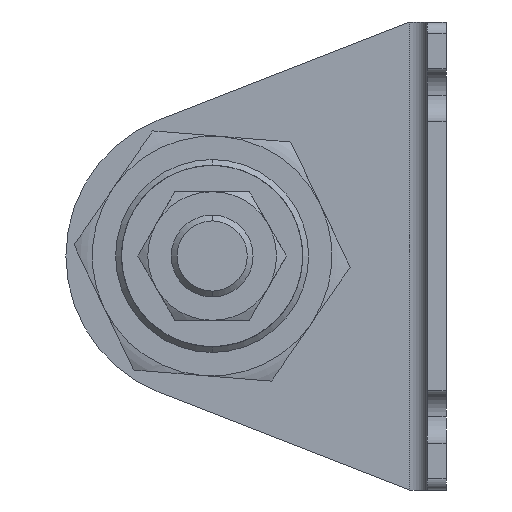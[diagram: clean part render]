
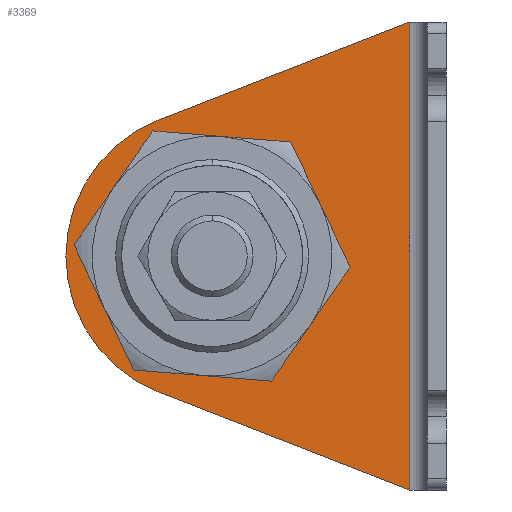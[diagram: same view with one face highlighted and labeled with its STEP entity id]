
A CAD part, left-side view. The second image highlights one B-rep face of the part: STEP entity #3369.
In plain terms, the highlighted planar face has unit normal (-1, 0, 0) as drawn and (1, 0, 0) by its records, which use the part's own axes.
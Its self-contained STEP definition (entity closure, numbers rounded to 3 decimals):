
#115 = CIRCLE ( 'NONE', #3756, 25. ) ;
#318 = DIRECTION ( 'NONE',  ( 0., 1., 0. ) ) ;
#419 = VECTOR ( 'NONE', #1192, 1000. ) ;
#472 = DIRECTION ( 'NONE',  ( 1., 0., 0. ) ) ;
#473 = DIRECTION ( 'NONE',  ( 1., 0., 0. ) ) ;
#530 = DIRECTION ( 'NONE',  ( 0., 1., 0. ) ) ;
#550 = DIRECTION ( 'NONE',  ( 1., 0., 0. ) ) ;
#761 = LINE ( 'NONE', #4305, #419 ) ;
#845 = PLANE ( 'NONE',  #2648 ) ;
#895 = DIRECTION ( 'NONE',  ( 1., 0., 0. ) ) ;
#1055 = LINE ( 'NONE', #3347, #1293 ) ;
#1066 = LINE ( 'NONE', #3132, #3350 ) ;
#1125 = ORIENTED_EDGE ( 'NONE', *, *, #3079, .T. ) ;
#1179 = CARTESIAN_POINT ( 'NONE',  ( 3.2, 40., -40. ) ) ;
#1192 = DIRECTION ( 'NONE',  ( 0., 0., -1. ) ) ;
#1293 = VECTOR ( 'NONE', #4438, 1000. ) ;
#1443 = AXIS2_PLACEMENT_3D ( 'NONE', #3338, #2734, #318 ) ;
#1528 = CARTESIAN_POINT ( 'NONE',  ( 3.2, 49.076, -63.294 ) ) ;
#1631 = ORIENTED_EDGE ( 'NONE', *, *, #3090, .F. ) ;
#1632 = FACE_OUTER_BOUND ( 'NONE', #3742, .T. ) ;
#1638 = CIRCLE ( 'NONE', #2561, 25. ) ;
#1781 = ORIENTED_EDGE ( 'NONE', *, *, #3499, .T. ) ;
#1887 = VERTEX_POINT ( 'NONE', #1528 ) ;
#1914 = DIRECTION ( 'NONE',  ( 0., 1., 0. ) ) ;
#2096 = VERTEX_POINT ( 'NONE', #2410 ) ;
#2244 = DIRECTION ( 'NONE',  ( 0., 0.932, 0.363 ) ) ;
#2272 = VERTEX_POINT ( 'NONE', #4154 ) ;
#2274 = CIRCLE ( 'NONE', #1443, 16.5 ) ;
#2324 = VERTEX_POINT ( 'NONE', #3408 ) ;
#2358 = EDGE_CURVE ( 'NONE', #4457, #2324, #1638, .T. ) ;
#2364 = CARTESIAN_POINT ( 'NONE',  ( 3.2, 6.2, 0. ) ) ;
#2378 = VERTEX_POINT ( 'NONE', #2364 ) ;
#2410 = CARTESIAN_POINT ( 'NONE',  ( 3.2, 56.5, -40. ) ) ;
#2527 = CIRCLE ( 'NONE', #3358, 16.5 ) ;
#2561 = AXIS2_PLACEMENT_3D ( 'NONE', #1179, #895, #530 ) ;
#2608 = CARTESIAN_POINT ( 'NONE',  ( 3.2, 3.2, -80. ) ) ;
#2648 = AXIS2_PLACEMENT_3D ( 'NONE', #2608, #550, #2900 ) ;
#2734 = DIRECTION ( 'NONE',  ( 1., 0., 0. ) ) ;
#2849 = ORIENTED_EDGE ( 'NONE', *, *, #3716, .F. ) ;
#2900 = DIRECTION ( 'NONE',  ( 0., 1., 0. ) ) ;
#2908 = CARTESIAN_POINT ( 'NONE',  ( 3.2, 23.5, -40. ) ) ;
#3079 = EDGE_CURVE ( 'NONE', #2378, #2272, #761, .T. ) ;
#3090 = EDGE_CURVE ( 'NONE', #4018, #2096, #2527, .T. ) ;
#3132 = CARTESIAN_POINT ( 'NONE',  ( 3.2, 3.595, -81.015 ) ) ;
#3137 = EDGE_CURVE ( 'NONE', #2378, #2324, #1055, .T. ) ;
#3338 = CARTESIAN_POINT ( 'NONE',  ( 3.2, 40., -40. ) ) ;
#3347 = CARTESIAN_POINT ( 'NONE',  ( 3.2, 30.657, -9.529 ) ) ;
#3350 = VECTOR ( 'NONE', #2244, 1000. ) ;
#3358 = AXIS2_PLACEMENT_3D ( 'NONE', #3752, #472, #4107 ) ;
#3369 = ADVANCED_FACE ( 'NONE', ( #3760, #1632 ), #845, .T. ) ;
#3408 = CARTESIAN_POINT ( 'NONE',  ( 3.2, 49.076, -16.706 ) ) ;
#3499 = EDGE_CURVE ( 'NONE', #2272, #1887, #1066, .T. ) ;
#3615 = CARTESIAN_POINT ( 'NONE',  ( 3.2, 40., -40. ) ) ;
#3628 = EDGE_LOOP ( 'NONE', ( #2849, #1631 ) ) ;
#3676 = ORIENTED_EDGE ( 'NONE', *, *, #3801, .T. ) ;
#3716 = EDGE_CURVE ( 'NONE', #2096, #4018, #2274, .T. ) ;
#3742 = EDGE_LOOP ( 'NONE', ( #1781, #3676, #3889, #4303, #1125 ) ) ;
#3752 = CARTESIAN_POINT ( 'NONE',  ( 3.2, 40., -40. ) ) ;
#3756 = AXIS2_PLACEMENT_3D ( 'NONE', #3615, #473, #1914 ) ;
#3760 = FACE_BOUND ( 'NONE', #3628, .T. ) ;
#3801 = EDGE_CURVE ( 'NONE', #1887, #4457, #115, .T. ) ;
#3889 = ORIENTED_EDGE ( 'NONE', *, *, #2358, .T. ) ;
#4018 = VERTEX_POINT ( 'NONE', #2908 ) ;
#4107 = DIRECTION ( 'NONE',  ( 0., 1., 0. ) ) ;
#4154 = CARTESIAN_POINT ( 'NONE',  ( 3.2, 6.2, -80. ) ) ;
#4303 = ORIENTED_EDGE ( 'NONE', *, *, #3137, .F. ) ;
#4305 = CARTESIAN_POINT ( 'NONE',  ( 3.2, 6.2, -80. ) ) ;
#4318 = CARTESIAN_POINT ( 'NONE',  ( 3.2, 65., -40. ) ) ;
#4438 = DIRECTION ( 'NONE',  ( 0., 0.932, -0.363 ) ) ;
#4457 = VERTEX_POINT ( 'NONE', #4318 ) ;
